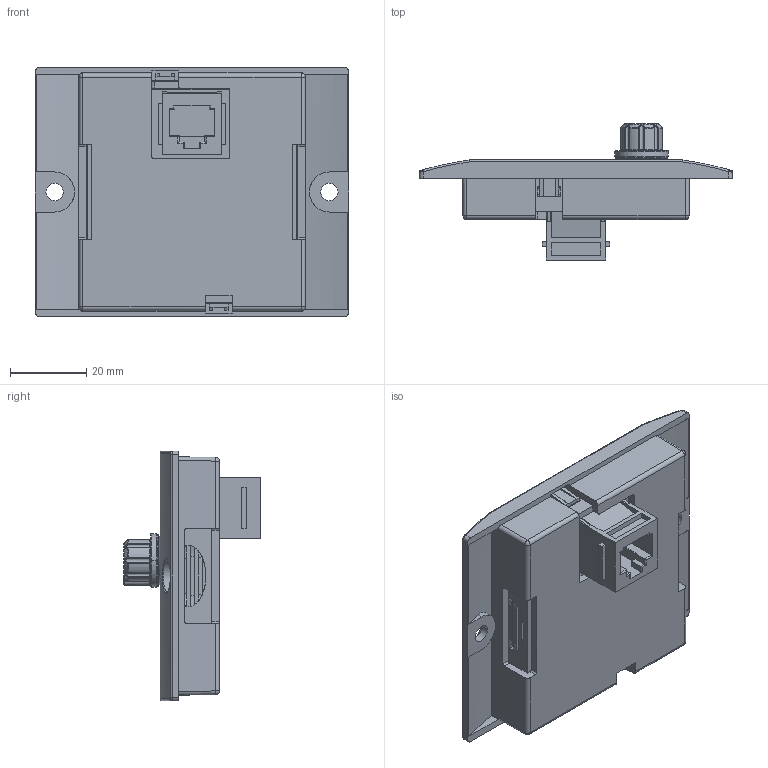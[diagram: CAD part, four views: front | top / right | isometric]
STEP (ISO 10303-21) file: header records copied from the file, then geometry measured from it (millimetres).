
FILE_DESCRIPTION((''),'2;1');
FILE_NAME('OP_REMOTE_KEYPAD_200529_ASM','2024-02-16T16:37:31',('A003218518'),(''),'CREO PARAMETRIC BY PTC INC, 2020354','CREO PARAMETRIC BY PTC INC, 2020354','');
FILE_SCHEMA(('CONFIG_CONTROL_DESIGN'));
Products named in the file (11): M100_REMOTE_COVER_6_1; M100_REMOTE_PCB_V2_1_1; KEYPAD_MODULAR_JACK_AR657PT__1_; M100_REMOTE_PCB_ASSY_ASM_1_ASM__ASM; M100_REMOTE-SHEET_3_1; VOLUME_JOG_8_1; M100_REMOTE_COVER_ASSY_ASM_3_AS_ASM; S100_REMOTE_BASE_2_1; TOTAL_M100_REMOTE_KEYPAD_ASM_8__ASM; TOTAL_M100_REMOTE_KEYPAD_ASM_AS_ASM; OP_REMOTE_KEYPAD_200529_ASM
Assembly tree (10 placements, depth 6):
  OP_REMOTE_KEYPAD_200529_ASM
    TOTAL_M100_REMOTE_KEYPAD_ASM_AS_ASM
      TOTAL_M100_REMOTE_KEYPAD_ASM_8__ASM
        M100_REMOTE_COVER_ASSY_ASM_3_AS_ASM
          M100_REMOTE_COVER_6_1
          M100_REMOTE_PCB_ASSY_ASM_1_ASM__ASM
            M100_REMOTE_PCB_V2_1_1
            KEYPAD_MODULAR_JACK_AR657PT__1_
          M100_REMOTE-SHEET_3_1
          VOLUME_JOG_8_1
        S100_REMOTE_BASE_2_1
Bounding box: 82 x 35.7 x 65.4 mm (x, y, z)
Volume: 36107 mm3; surface area: 44078.6 mm2
Topology: 6 solids, 6 shells, 1768 faces, 4735 edges, 2996 vertices
Faces by surface type: plane 647, cylinder 579, torus 225, bspline 199, cone 92, sphere 24, extrusion 2
Entity records: 65752 total; most frequent: CARTESIAN_POINT 22209, ORIENTED_EDGE 9424, DIRECTION 8753, EDGE_CURVE 4712, AXIS2_PLACEMENT_3D 3201, VERTEX_POINT 2995, VECTOR 2351, LINE 2349
